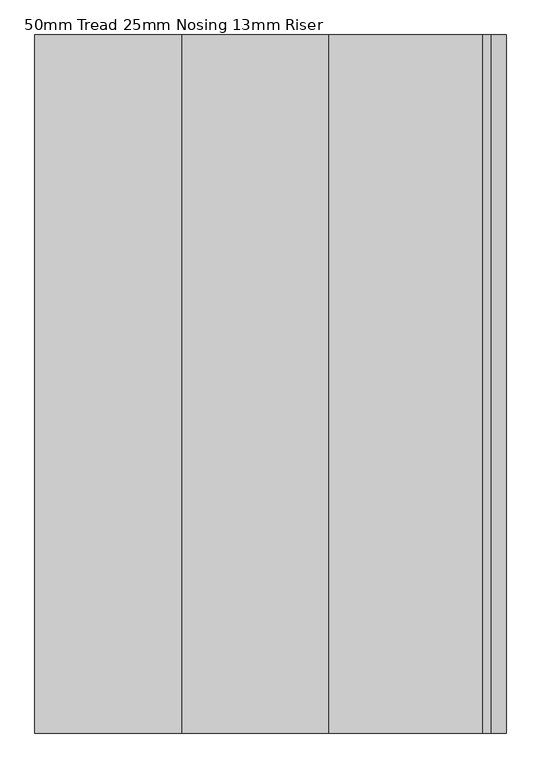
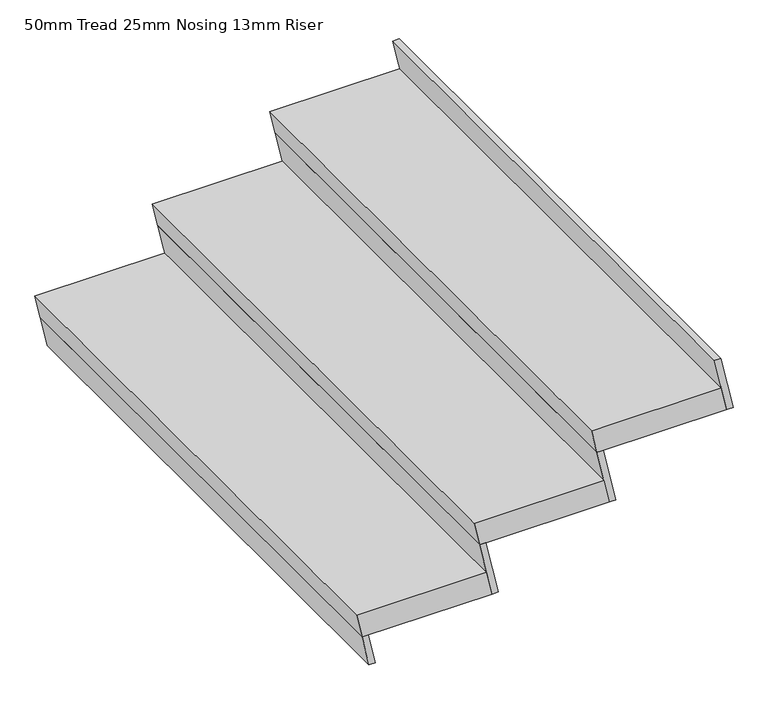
"""IFC4 building model written with IfcOpenShell, lengths in millimetres: stair flight geometry, 50mm Tread 25mm Nosing 13mm Riser."""

from ifc_helpers import new_model, si_unit, frame, origin, place, context, project, spatial, polyline, outline, extrude, source, transform, mapped, element, save


def stair_flight_50mm_tread_25mm_nosing_13mm_riser_778b39ea(model_context):
    return source(origin(), model_context, "Body", "SweptSolid", [
        extrude(outline(polyline([(114.3, -3582.0614795), (114.3, -3845.0541878), (64.3, -3834.1180548), (64.3, -3571.1253465), (114.3, -3582.0614795)])), frame((0.0, -7211.1128667, 0.0), z_axis=(0.0, 1.0, 0.0), x_axis=(0.0, 0.0, 1.0)), (0.0, 0.0, 1.0), 1129.03),
        extrude(outline(polyline([(64.3, -3834.1180548), (0.0, -3820.0541878), (0.0, -3807.2586832), (64.3, -3821.3225502), (64.3, -3834.1180548)])), frame((0.0, -7211.1128667, 0.0), z_axis=(0.0, 1.0, 0.0), x_axis=(0.0, 0.0, 1.0)), (0.0, 0.0, 1.0), 1129.03),
        extrude(outline(polyline([(178.6, -3596.1253465), (64.3, -3571.1253465), (64.3, -3558.3298419), (178.6, -3583.3298419), (178.6, -3596.1253465)])), frame((0.0, -7211.1128667, 0.0), z_axis=(0.0, 1.0, 0.0), x_axis=(0.0, 0.0, 1.0)), (0.0, 0.0, 1.0), 1129.03),
        extrude(outline(polyline([(228.6, -3344.0687711), (228.6, -3607.0614795), (178.6, -3596.1253465), (178.6, -3333.1326382), (228.6, -3344.0687711)])), frame((0.0, -7211.1128667, 0.0), z_axis=(0.0, 1.0, 0.0), x_axis=(0.0, 0.0, 1.0)), (0.0, 0.0, 1.0), 1129.03),
        extrude(outline(polyline([(292.9, -3358.1326382), (178.6, -3333.1326382), (178.6, -3320.3371336), (292.9, -3345.3371336), (292.9, -3358.1326382)])), frame((0.0, -7211.1128667, 0.0), z_axis=(0.0, 1.0, 0.0), x_axis=(0.0, 0.0, 1.0)), (0.0, 0.0, 1.0), 1129.03),
        extrude(outline(polyline([(407.2, -3120.1399298), (292.9, -3095.1399298), (292.9, -3082.3444252), (407.2, -3107.3444252), (407.2, -3120.1399298)])), frame((0.0, -7211.1128667, 0.0), z_axis=(0.0, 1.0, 0.0), x_axis=(0.0, 0.0, 1.0)), (0.0, 0.0, 1.0), 1129.03),
        extrude(outline(polyline([(342.9, -3106.0760628), (342.9, -3369.0687711), (292.9, -3358.1326382), (292.9, -3095.1399298), (342.9, -3106.0760628)])), frame((0.0, -7211.1128667, 0.0), z_axis=(0.0, 1.0, 0.0), x_axis=(0.0, 0.0, 1.0)), (0.0, 0.0, 1.0), 1129.03),
    ])


if __name__ == "__main__":
    model = new_model("IFC4")
    model_context = context("Model", 3, world=origin())
    ifc_project = project(units=[si_unit("LENGTHUNIT", "METRE", prefix="MILLI")], contexts=[model_context])
    site = spatial("IfcSite", under=ifc_project)
    building = spatial("IfcBuilding", under=site)
    placement = place(None, origin())
    stair_flight_50mm_tread_25mm_nosing_13mm_riser_shape = stair_flight_50mm_tread_25mm_nosing_13mm_riser_778b39ea(model_context)
    element("IfcStairFlight", 1, ObjectType="50mm Tread 25mm Nosing 13mm Riser", at=placement, inside=building, context=model_context, shape_type="MappedRepresentation", body=[
        mapped(stair_flight_50mm_tread_25mm_nosing_13mm_riser_shape, transform((0.0, 0.0, 0.0), x_axis=(1.0, 0.0, 0.0), y_axis=(0.0, 1.0, 0.0), z_axis=(0.0, 0.0, 1.0))),
    ])
    save(model, "model.ifc")
